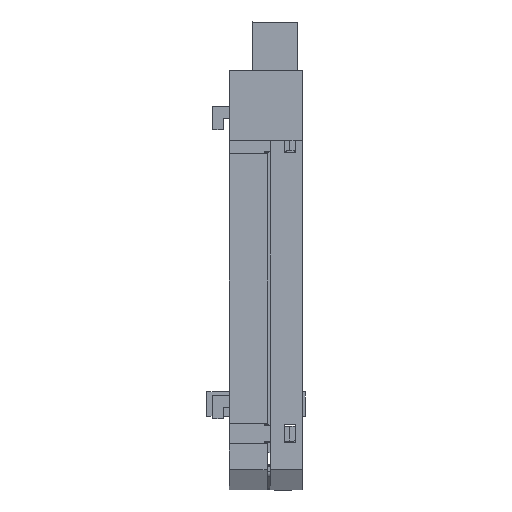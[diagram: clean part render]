
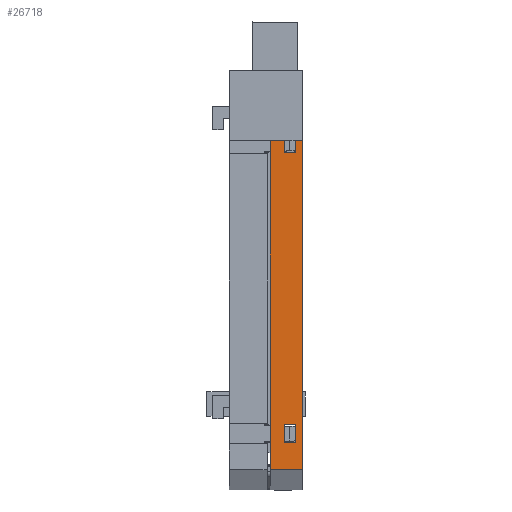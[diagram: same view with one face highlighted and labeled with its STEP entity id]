
A CAD part, front view. The second image highlights one B-rep face of the part: STEP entity #26718.
In plain terms, the highlighted planar face has unit normal (0, -1, 0).
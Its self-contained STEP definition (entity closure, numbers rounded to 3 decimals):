
#688 = CARTESIAN_POINT ( 'NONE',  ( 5.5, 0., 0. ) ) ;
#740 = LINE ( 'NONE', #5125, #29479 ) ;
#1444 = CARTESIAN_POINT ( 'NONE',  ( 2.4, 0., -60.645 ) ) ;
#1484 = VERTEX_POINT ( 'NONE', #29938 ) ;
#1735 = ORIENTED_EDGE ( 'NONE', *, *, #31774, .T. ) ;
#2746 = LINE ( 'NONE', #30384, #3632 ) ;
#2751 = CARTESIAN_POINT ( 'NONE',  ( 0., 0., -65.25 ) ) ;
#3283 = CARTESIAN_POINT ( 'NONE',  ( 4.4, 0., -10.945 ) ) ;
#3587 = VECTOR ( 'NONE', #12185, 1000. ) ;
#3598 = CARTESIAN_POINT ( 'NONE',  ( 2.4, 0., -60.645 ) ) ;
#3632 = VECTOR ( 'NONE', #36175, 1000. ) ;
#3927 = AXIS2_PLACEMENT_3D ( 'NONE', #8611, #11485, #31636 ) ;
#3940 = CARTESIAN_POINT ( 'NONE',  ( 2.4, 0., -10.945 ) ) ;
#4293 = DIRECTION ( 'NONE',  ( 0., 0., 1. ) ) ;
#4814 = ORIENTED_EDGE ( 'NONE', *, *, #12918, .T. ) ;
#5049 = FACE_BOUND ( 'NONE', #29344, .T. ) ;
#5125 = CARTESIAN_POINT ( 'NONE',  ( 4.4, 0., -10.945 ) ) ;
#5325 = CARTESIAN_POINT ( 'NONE',  ( 4.4, 0., -60.645 ) ) ;
#5454 = LINE ( 'NONE', #11045, #27439 ) ;
#5559 = EDGE_CURVE ( 'NONE', #34963, #15796, #22095, .T. ) ;
#6556 = CARTESIAN_POINT ( 'NONE',  ( 5.5, 0., 0. ) ) ;
#6832 = VECTOR ( 'NONE', #11084, 1000. ) ;
#7468 = EDGE_LOOP ( 'NONE', ( #4814, #16374, #36102, #8284 ) ) ;
#7672 = CARTESIAN_POINT ( 'NONE',  ( 2.4, 0., -57.545 ) ) ;
#8284 = ORIENTED_EDGE ( 'NONE', *, *, #30387, .T. ) ;
#8595 = LINE ( 'NONE', #24641, #15333 ) ;
#8611 = CARTESIAN_POINT ( 'NONE',  ( 5.5, 0., 0. ) ) ;
#8745 = EDGE_CURVE ( 'NONE', #37312, #32127, #11231, .T. ) ;
#9296 = CARTESIAN_POINT ( 'NONE',  ( 5.5, 0., -65.25 ) ) ;
#9339 = CARTESIAN_POINT ( 'NONE',  ( 2.4, 0., -57.545 ) ) ;
#10240 = ORIENTED_EDGE ( 'NONE', *, *, #21730, .T. ) ;
#10486 = DIRECTION ( 'NONE',  ( 1., 0., 0. ) ) ;
#10583 = EDGE_CURVE ( 'NONE', #11829, #28283, #740, .T. ) ;
#11045 = CARTESIAN_POINT ( 'NONE',  ( 5.5, 0., 0. ) ) ;
#11084 = DIRECTION ( 'NONE',  ( 0., 0., -1. ) ) ;
#11124 = VECTOR ( 'NONE', #12208, 1000. ) ;
#11193 = CARTESIAN_POINT ( 'NONE',  ( 4.4, 0., -57.545 ) ) ;
#11231 = LINE ( 'NONE', #688, #3587 ) ;
#11485 = DIRECTION ( 'NONE',  ( 0., 1., 0. ) ) ;
#11768 = CARTESIAN_POINT ( 'NONE',  ( 2.4, 0., -10.945 ) ) ;
#11829 = VERTEX_POINT ( 'NONE', #25151 ) ;
#12113 = VECTOR ( 'NONE', #23663, 1000. ) ;
#12124 = CARTESIAN_POINT ( 'NONE',  ( 2.4, 0., -10.945 ) ) ;
#12185 = DIRECTION ( 'NONE',  ( 0., 0., -1. ) ) ;
#12208 = DIRECTION ( 'NONE',  ( 1., 0., 0. ) ) ;
#12280 = ORIENTED_EDGE ( 'NONE', *, *, #27121, .T. ) ;
#12918 = EDGE_CURVE ( 'NONE', #14875, #31811, #28412, .T. ) ;
#12948 = CARTESIAN_POINT ( 'NONE',  ( 2.4, 0., -7.845 ) ) ;
#13570 = ORIENTED_EDGE ( 'NONE', *, *, #8745, .F. ) ;
#14875 = VERTEX_POINT ( 'NONE', #12124 ) ;
#14988 = CARTESIAN_POINT ( 'NONE',  ( 4.4, 0., -60.645 ) ) ;
#15333 = VECTOR ( 'NONE', #10486, 1000. ) ;
#15796 = VERTEX_POINT ( 'NONE', #14988 ) ;
#16374 = ORIENTED_EDGE ( 'NONE', *, *, #21804, .T. ) ;
#17212 = VERTEX_POINT ( 'NONE', #7672 ) ;
#17572 = EDGE_CURVE ( 'NONE', #32127, #34090, #20050, .T. ) ;
#19467 = EDGE_LOOP ( 'NONE', ( #10240, #30828, #13570, #12280 ) ) ;
#19604 = CARTESIAN_POINT ( 'NONE',  ( 5.5, 0., -65.25 ) ) ;
#20050 = LINE ( 'NONE', #19604, #34506 ) ;
#20278 = LINE ( 'NONE', #1444, #27008 ) ;
#20311 = FACE_OUTER_BOUND ( 'NONE', #19467, .T. ) ;
#20802 = VECTOR ( 'NONE', #26786, 1000. ) ;
#21456 = ORIENTED_EDGE ( 'NONE', *, *, #5559, .T. ) ;
#21528 = VERTEX_POINT ( 'NONE', #23555 ) ;
#21730 = EDGE_CURVE ( 'NONE', #21528, #34090, #2746, .T. ) ;
#21804 = EDGE_CURVE ( 'NONE', #31811, #11829, #8595, .T. ) ;
#22095 = LINE ( 'NONE', #5325, #6832 ) ;
#22506 = DIRECTION ( 'NONE',  ( -1., 0., 0. ) ) ;
#23555 = CARTESIAN_POINT ( 'NONE',  ( 0., 0., 0. ) ) ;
#23663 = DIRECTION ( 'NONE',  ( -1., 0., 0. ) ) ;
#23808 = EDGE_CURVE ( 'NONE', #17212, #34963, #34107, .T. ) ;
#24641 = CARTESIAN_POINT ( 'NONE',  ( 2.4, 0., -7.845 ) ) ;
#25151 = CARTESIAN_POINT ( 'NONE',  ( 4.4, 0., -7.845 ) ) ;
#25778 = PLANE ( 'NONE',  #3927 ) ;
#26204 = DIRECTION ( 'NONE',  ( 0., 0., 1. ) ) ;
#26718 = ADVANCED_FACE ( 'NONE', ( #35633, #5049, #20311 ), #25778, .F. ) ;
#26786 = DIRECTION ( 'NONE',  ( -1., 0., 0. ) ) ;
#27008 = VECTOR ( 'NONE', #4293, 1000. ) ;
#27121 = EDGE_CURVE ( 'NONE', #37312, #21528, #5454, .T. ) ;
#27439 = VECTOR ( 'NONE', #31202, 1000. ) ;
#28283 = VERTEX_POINT ( 'NONE', #3283 ) ;
#28326 = LINE ( 'NONE', #3598, #12113 ) ;
#28412 = LINE ( 'NONE', #11768, #35169 ) ;
#29223 = ORIENTED_EDGE ( 'NONE', *, *, #23808, .T. ) ;
#29344 = EDGE_LOOP ( 'NONE', ( #29768, #1735, #29223, #21456 ) ) ;
#29387 = LINE ( 'NONE', #3940, #20802 ) ;
#29479 = VECTOR ( 'NONE', #36851, 1000. ) ;
#29768 = ORIENTED_EDGE ( 'NONE', *, *, #32739, .T. ) ;
#29938 = CARTESIAN_POINT ( 'NONE',  ( 2.4, 0., -60.645 ) ) ;
#30384 = CARTESIAN_POINT ( 'NONE',  ( 0., 0., 0. ) ) ;
#30387 = EDGE_CURVE ( 'NONE', #28283, #14875, #29387, .T. ) ;
#30828 = ORIENTED_EDGE ( 'NONE', *, *, #17572, .F. ) ;
#31202 = DIRECTION ( 'NONE',  ( -1., 0., 0. ) ) ;
#31636 = DIRECTION ( 'NONE',  ( 0., 0., 1. ) ) ;
#31774 = EDGE_CURVE ( 'NONE', #1484, #17212, #20278, .T. ) ;
#31811 = VERTEX_POINT ( 'NONE', #12948 ) ;
#32127 = VERTEX_POINT ( 'NONE', #9296 ) ;
#32739 = EDGE_CURVE ( 'NONE', #15796, #1484, #28326, .T. ) ;
#34090 = VERTEX_POINT ( 'NONE', #2751 ) ;
#34107 = LINE ( 'NONE', #9339, #11124 ) ;
#34506 = VECTOR ( 'NONE', #22506, 1000. ) ;
#34963 = VERTEX_POINT ( 'NONE', #11193 ) ;
#35169 = VECTOR ( 'NONE', #26204, 1000. ) ;
#35633 = FACE_BOUND ( 'NONE', #7468, .T. ) ;
#36102 = ORIENTED_EDGE ( 'NONE', *, *, #10583, .T. ) ;
#36175 = DIRECTION ( 'NONE',  ( 0., 0., -1. ) ) ;
#36851 = DIRECTION ( 'NONE',  ( 0., 0., -1. ) ) ;
#37312 = VERTEX_POINT ( 'NONE', #6556 ) ;
